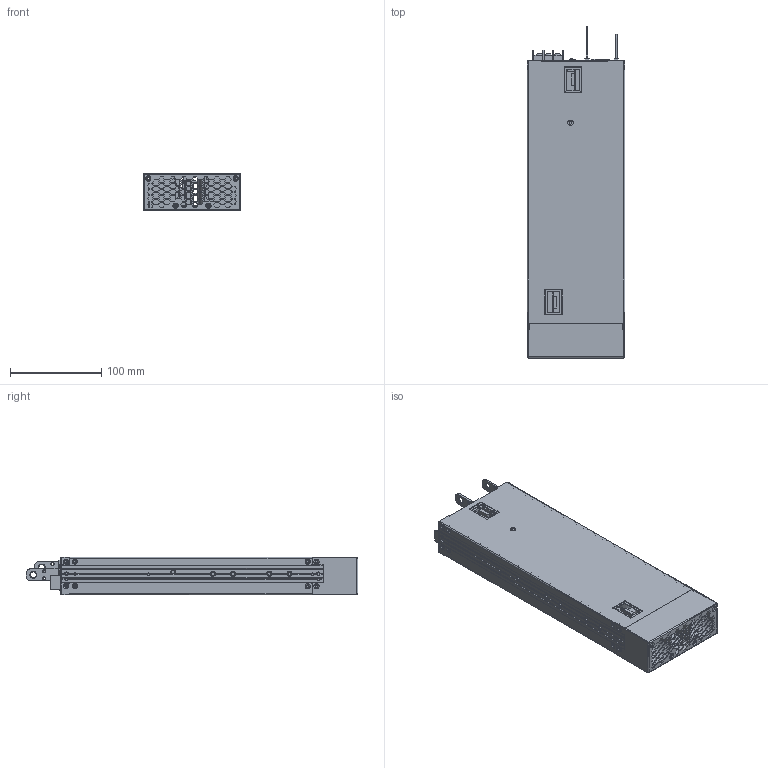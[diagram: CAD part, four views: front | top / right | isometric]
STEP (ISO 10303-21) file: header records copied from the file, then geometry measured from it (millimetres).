
FILE_DESCRIPTION((''),'2;1');
FILE_NAME('RXP-3200_ASM-1_ASM','2023-04-17T',('Vincent.Kao'),(''),'CREO PARAMETRIC BY PTC INC, 2016260','CREO PARAMETRIC BY PTC INC, 2016260','');
FILE_SCHEMA(('AUTOMOTIVE_DESIGN { 1 0 10303 214 1 1 1 1 }'));
Products named in the file (7): SKIN_GROUP1; SKIN_GROUP2; SKIN_GROUP3; SKIN_GROUP4; SKIN_GROUP5; ASSEMBLY1_ASM; RXP-3200_ASM-1_ASM
Assembly tree (6 placements, depth 3):
  RXP-3200_ASM-1_ASM
    ASSEMBLY1_ASM
      SKIN_GROUP1
      SKIN_GROUP2
      SKIN_GROUP3
      SKIN_GROUP4
      SKIN_GROUP5
Bounding box: 106.9 x 363.8 x 40.8 mm (x, y, z)
Volume: 288609.6 mm3; surface area: 335500.2 mm2
Topology: 5 solids, 5 shells, 1798 faces, 5071 edges, 3259 vertices
Faces by surface type: plane 1128, cylinder 462, cone 145, sphere 29, torus 16, bspline 11, extrusion 7
Entity records: 72041 total; most frequent: CARTESIAN_POINT 11902, ORIENTED_EDGE 10094, DIRECTION 9421, EDGE_CURVE 5047, VECTOR 3655, LINE 3648, VERTEX_POINT 3259, AXIS2_PLACEMENT_3D 2883
